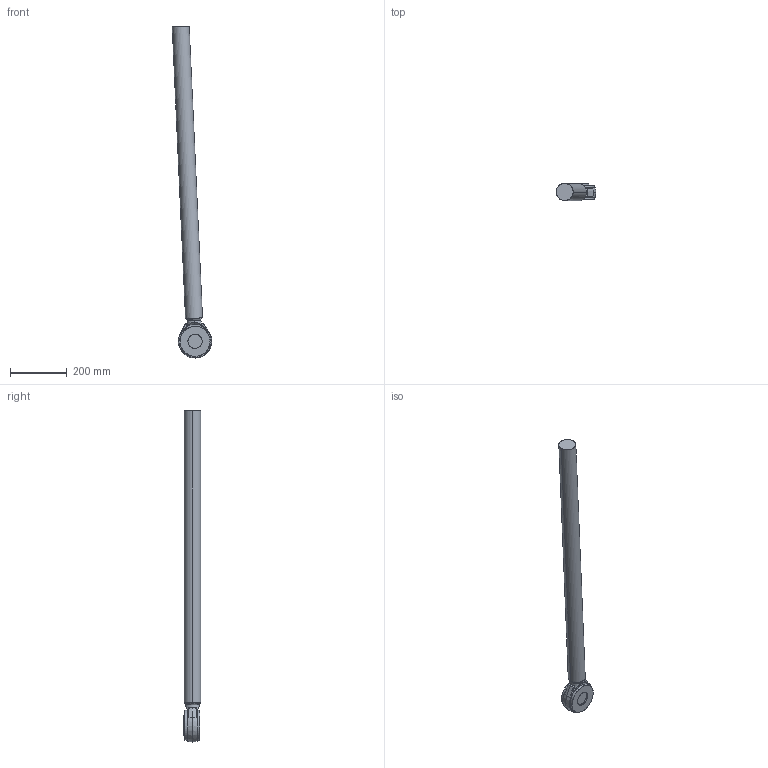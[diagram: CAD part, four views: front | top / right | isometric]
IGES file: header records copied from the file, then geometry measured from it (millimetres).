
Start section: SolidWorks IGES file using analytic representation for surfaces
Global section: file name: B:\DM\Robotics\SEROP_PROJ\Product Development\DevelopmentProjects\HD\3_Design PRMD\4_Struktur SAP o CAD\Lättmodeller\IRB8700-MH3_800-350\IRB8700-MH3_800-350_IRC5_IGES_j\IRB8700-MH3_800-350_IRC5_rev00_BAL-B-LEFT_CAD.IGS; native system: SolidWorks 2014; preprocessor: SolidWorks 2014; author: sepehak; date: 150604.102142; units: millimetre
Bounding box: 139.95 x 63.5 x 1173.35 mm (x, y, z)
Surface area: 242837.6 mm2 (no closed solid volume)
Topology: 0 solids, 0 shells, 43 faces, 1350 edges, 1349 vertices
Faces by surface type: revolution 25, bspline 18
